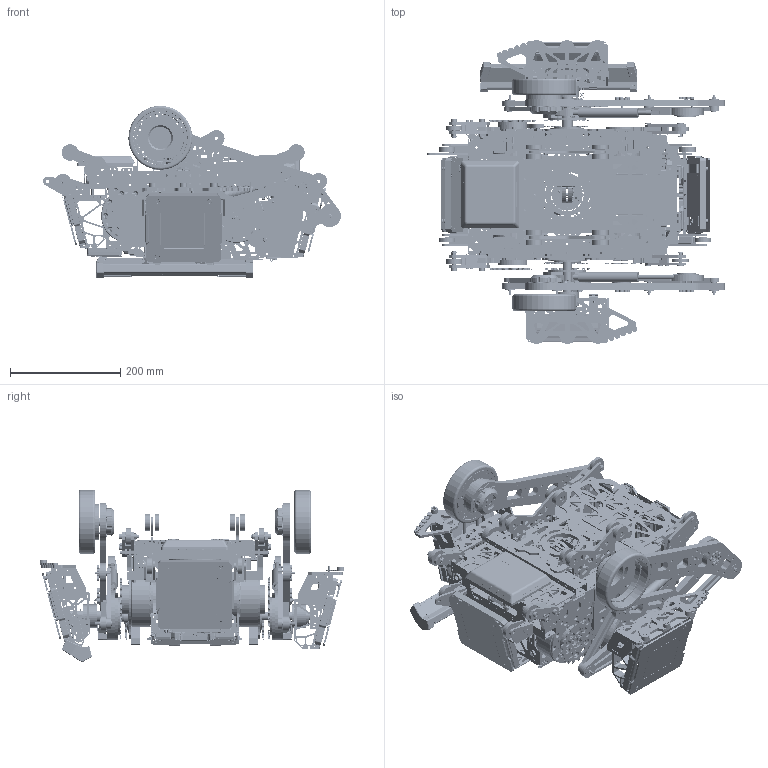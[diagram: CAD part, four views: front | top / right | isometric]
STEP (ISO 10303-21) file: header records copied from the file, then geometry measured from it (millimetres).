
FILE_DESCRIPTION (( 'STEP AP214' ), '1' );
FILE_NAME ('New_dogleg_¿ªÔ´.STEP', '2025-08-24T16:49:25', ( '' ), ( '' ), 'SwSTEP 2.0', 'SolidWorks 2024', '' );
FILE_SCHEMA (( 'AUTOMOTIVE_DESIGN' ));
Products named in the file (1): New_dogleg_开源
Bounding box: 539.93 x 552.87 x 312.51 mm (x, y, z)
Surface area: 2497665.7 mm2 (no closed solid volume)
Topology: 0 solids, 2622 shells, 10803 faces, 60892 edges, 50771 vertices
Faces by surface type: plane 5102, cylinder 4321, bspline 531, cone 459, torus 274, sphere 116
Full cylindrical faces by diameter (mm): 0.786 x1, 0.8 x1, 1 x6, 1.109 x1, 1.25 x2, 1.5 x4, 1.6 x5, 1.7 x1, 2 x19, 2.05 x3, 2.1 x14, 2.2 x9, 2.3 x2, 2.4 x3, 2.5 x60, 2.6 x2, 2.7 x10, 2.9 x1, 3 x166, 3.1 x58, 3.2 x88, 3.3 x38, 3.4 x5, 3.5 x11, 3.6 x1, 3.8 x1, 3.9 x12, 4 x183, 4.01 x2, 4.06 x7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
Entity records: 659314 total; most frequent: CARTESIAN_POINT 199182, DIRECTION 94182, ORIENTED_EDGE 73848, EDGE_CURVE 59122, VERTEX_POINT 50562, AXIS2_PLACEMENT_3D 32891, VECTOR 28400, LINE 28400
